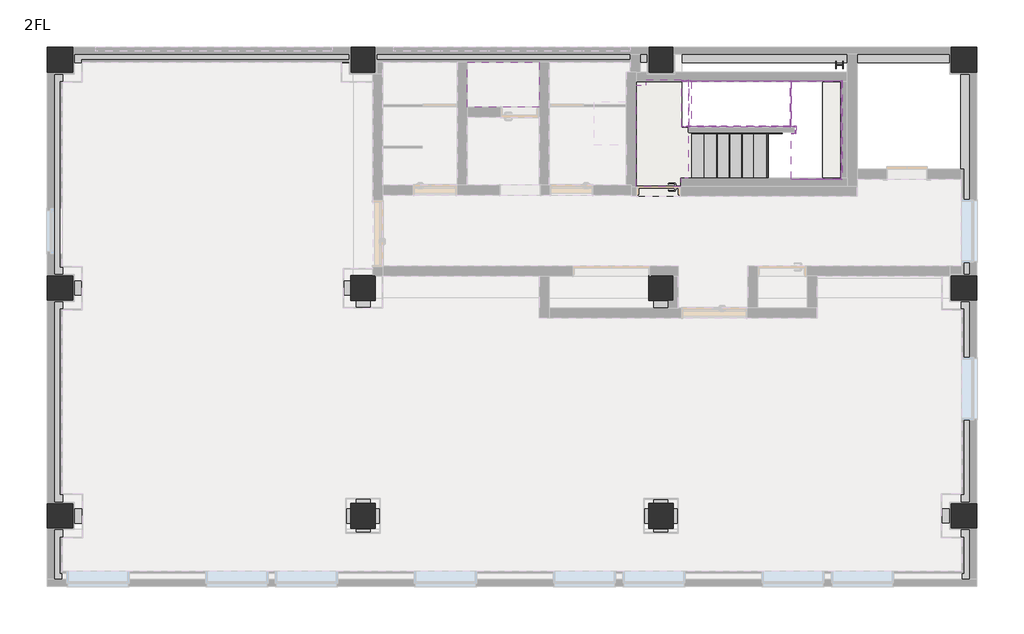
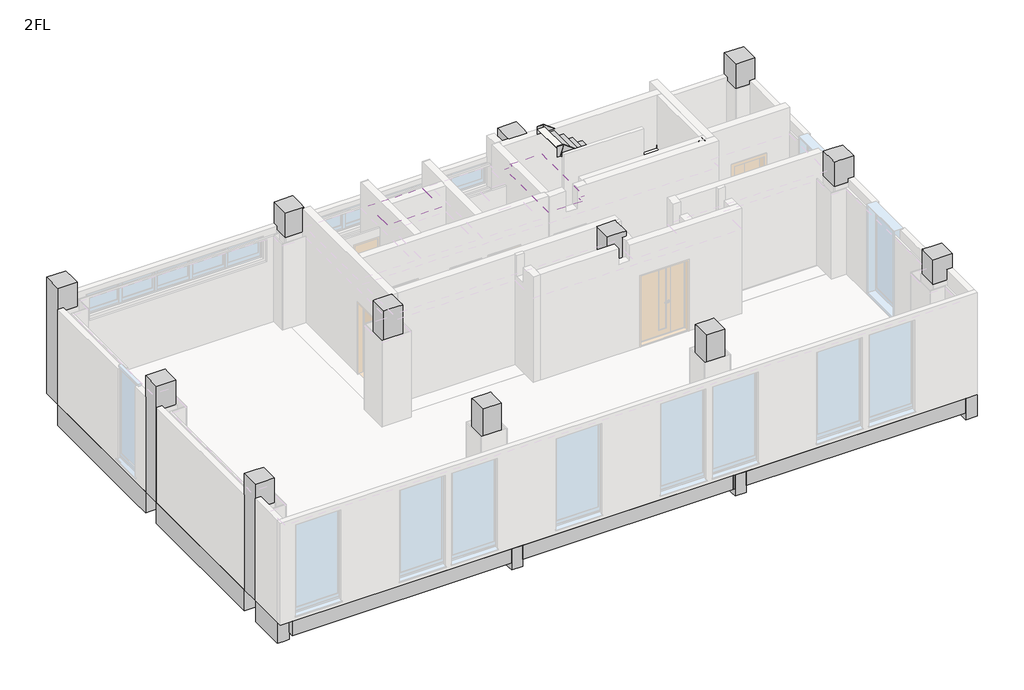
# One storey, part 4 of 4: 24 beams, 14 columns, 13 members, 3 coverings, 3 slabs, 2 stair flights.
"""IFC4 building model written with IfcOpenShell, lengths in millimetres."""

from ifc_helpers import new_model, si_unit, frame, origin, place, context, project, spatial, polyline, outline, extrude, faceted_brep, transform, mapped, element, save
from components import column_e4589e5c, column_fab59fd0, non_monolithic_landing_bc0c6dcb, non_monolithic_landing_c41cb356, stair_flight_45_mm_tread_10_mm_riser_4d8eba7b, stair_flight_45_mm_tread_10_mm_riser_bd22e289

model = new_model("IFC4")

# Units and contexts
model_context = context("Model", 3, world=origin())
ifc_project = project(units=[si_unit("LENGTHUNIT", "METRE", prefix="MILLI")], contexts=[model_context])

# Site, building, storey
site = spatial("IfcSite", under=ifc_project)
building = spatial("IfcBuilding", under=site)
storey = spatial("IfcBuildingStorey", under=building, Name="2FL", Elevation=3400.0)

# Beams
placement = place(None, origin())
element("IfcBeam", 1, ObjectType="RC : SG1(600X300)", at=placement, inside=storey, context=model_context, shape_type="Brep", body=[
    faceted_brep([(237.3000006, 150.0, 2650.0), (237.3000006, -150.0, 2650.0), (237.3000006, -150.0, 3250.0), (237.3000006, 150.0, 3250.0), (250.0, 150.0, 3250.0), (5840.0, 150.0, 3250.0), (5840.0, 150.0, 3100.0), (5840.0, 150.0, 2650.0), (250.0, -150.0, 3250.0), (5840.0, -150.0, 3250.0), (250.0, -150.0, 2650.0), (5840.0, -150.0, 2650.0), (5840.0, -125.0, 2650.0)], [[[0, 1, 2, 3]], [[0, 3, 4, 5, 6, 7]], [[3, 2, 8, 9, 5, 4]], [[2, 1, 10, 11, 9, 8]], [[1, 0, 7, 12, 11, 10]], [[7, 6, 5, 9, 11, 12]]]),
])
element("IfcBeam", 2, ObjectType="RC : SG1(600X300)", at=placement, inside=storey, context=model_context, shape_type="Brep", body=[
    faceted_brep([(11840.0, 150.0, 2650.0), (11840.0, 150.0, 3100.0), (11840.0, 150.0, 3250.0), (11840.0, -150.0, 3250.0), (11840.0, -150.0, 2650.0), (11840.0, -125.0, 2650.0), (6340.0000006, 150.0, 2650.0), (6340.0000006, -150.0, 2650.0), (6340.0000006, -150.0, 3250.0), (6340.0000006, 150.0, 3250.0), (11649.9999991, 150.0, 2650.0)], [[[0, 1, 2, 3, 4, 5]], [[6, 7, 8, 9]], [[2, 1, 0, 10, 6, 9]], [[3, 2, 9, 8]], [[4, 3, 8, 7]], [[0, 5, 4, 7, 6, 10]]]),
])
element("IfcBeam", 3, ObjectType="RC : SG1(600X300)", at=placement, inside=storey, context=model_context, shape_type="Brep", body=[
    faceted_brep([(17929.9999994, 150.0, 2650.0), (17929.9999994, 150.0, 3250.0), (17929.9999994, -150.0, 3250.0), (17929.9999994, -150.0, 2650.0), (12340.0000006, 150.0, 2650.0), (12340.0000006, -150.0, 2650.0), (12340.0000006, -150.0, 3250.0), (12340.0000006, 150.0, 3250.0), (17900.0, 150.0, 2650.0), (17780.0, 150.0, 2650.0), (15200.0, 150.0, 2650.0), (15055.0, 150.0, 2650.0), (15200.0, -150.0, 3250.0), (15200.0, -150.0, 2650.0), (17780.0, -150.0, 2650.0), (17900.0, -150.0, 2650.0)], [[[0, 1, 2, 3]], [[4, 5, 6, 7]], [[1, 0, 8, 9, 10, 11, 4, 7]], [[2, 1, 7, 6, 12]], [[3, 2, 12, 6, 5, 13, 14, 15]], [[0, 3, 15, 14, 13, 5, 4, 11, 10, 9, 8]]]),
])
element("IfcBeam", 4, ObjectType="RC : SG1(600X300)", at=placement, inside=storey, context=model_context, shape_type="SweptSolid", body=[
    extrude(outline(polyline([(5839.9999994, 4740.0), (5839.9999994, 4440.0), (250.0000006, 4440.0), (250.0000006, 4740.0), (5839.9999994, 4740.0)])), frame((0.0, 0.0, 2650.0), z_axis=(0.0, 0.0, 1.0), x_axis=(1.0, 0.0, 0.0)), (0.0, 0.0, 1.0), 600.0),
])
element("IfcBeam", 5, ObjectType="RC : SG1(600X300)", at=placement, inside=storey, context=model_context, shape_type="Brep", body=[
    faceted_brep([(11840.0, 4740.0, 2650.0), (11840.0, 4740.0, 3240.0), (11840.0, 4740.0, 3250.0), (11840.0, 4440.0, 3250.0), (11840.0, 4440.0, 3100.0), (11840.0, 4440.0, 2650.0), (6340.0000006, 4740.0, 2650.0), (6340.0000006, 4440.0, 2650.0), (6340.0000006, 4440.0, 3250.0), (6340.0000006, 4740.0, 3250.0), (9840.0, 4740.0, 2650.0), (9640.0, 4740.0, 2650.0), (9640.0, 4440.0, 2650.0), (9840.0, 4440.0, 2650.0)], [[[0, 1, 2, 3, 4, 5]], [[6, 7, 8, 9]], [[2, 1, 0, 10, 11, 6, 9]], [[3, 2, 9, 8]], [[5, 4, 3, 8, 7, 12, 13]], [[0, 5, 13, 12, 7, 6, 11, 10]]]),
])
element("IfcBeam", 6, ObjectType="RC : SG1(600X300)", at=placement, inside=storey, context=model_context, shape_type="Brep", body=[
    faceted_brep([(17929.9999994, 4740.0, 2650.0), (17929.9999994, 4740.0, 3250.0), (17929.9999994, 4440.0, 3250.0), (17929.9999994, 4440.0, 2650.0), (12340.0000006, 4740.0, 2650.0), (12340.0000006, 4440.0, 2650.0), (12340.0000006, 4440.0, 3250.0), (12340.0000006, 4740.0, 3250.0), (15240.0, 4740.0, 2650.0), (15040.0, 4740.0, 2650.0), (13640.0, 4740.0, 2650.0), (13440.0, 4740.0, 2650.0), (12440.0, 4740.0, 2650.0), (12440.0, 4740.0, 3250.0), (12440.0, 4440.0, 3250.0), (12440.0, 4440.0, 2650.0), (13440.0, 4440.0, 2650.0), (13640.0, 4440.0, 2650.0), (15040.0, 4440.0, 2650.0), (15240.0, 4440.0, 2650.0)], [[[0, 1, 2, 3]], [[4, 5, 6, 7]], [[1, 0, 8, 9, 10, 11, 12, 4, 7, 13]], [[2, 1, 13, 7, 6, 14]], [[3, 2, 14, 6, 5, 15, 16, 17, 18, 19]], [[0, 3, 19, 18, 17, 16, 15, 5, 4, 12, 11, 10, 9, 8]]]),
])
element("IfcBeam", 7, ObjectType="RC : SG1(600X300)", at=placement, inside=storey, context=model_context, shape_type="SweptSolid", body=[
    extrude(outline(polyline([(5940.0, 4339.9999994), (6240.0, 4339.9999994), (6240.0, 250.0000006), (5940.0, 250.0000006), (5940.0, 4339.9999994)])), frame((0.0, 0.0, 2650.0), z_axis=(0.0, 0.0, 1.0), x_axis=(1.0, 0.0, 0.0)), (0.0, 0.0, 1.0), 600.0),
])
element("IfcBeam", 8, ObjectType="RC : SG1(600X300)", at=placement, inside=storey, context=model_context, shape_type="SweptSolid", body=[
    extrude(outline(polyline([(5940.0, 8929.9999994), (6240.0, 8929.9999994), (6240.0, 4840.0000006), (5940.0, 4840.0000006), (5940.0, 8929.9999994)])), frame((0.0, 0.0, 2650.0), z_axis=(0.0, 0.0, 1.0), x_axis=(1.0, 0.0, 0.0)), (0.0, 0.0, 1.0), 600.0),
])
element("IfcBeam", 9, ObjectType="RC : SG1(600X300)", at=placement, inside=storey, context=model_context, shape_type="Brep", body=[
    faceted_brep([(11940.0, 4339.9999994, 2650.0), (11940.0, 4339.9999994, 3250.0), (12240.0, 4339.9999994, 3250.0), (12240.0, 4339.9999994, 2650.0), (11940.0, 250.0000006, 2650.0), (12240.0, 250.0000006, 2650.0), (12240.0, 250.0000006, 3250.0), (11940.0, 250.0000006, 3250.0), (11940.0, 4190.0, 2650.0), (11940.0, 3990.0, 2650.0), (12240.0, 3990.0, 2650.0), (12240.0, 4190.0, 2650.0)], [[[0, 1, 2, 3]], [[4, 5, 6, 7]], [[1, 0, 8, 9, 4, 7]], [[2, 1, 7, 6]], [[3, 2, 6, 5, 10, 11]], [[0, 3, 11, 10, 5, 4, 9, 8]]]),
])
element("IfcBeam", 10, ObjectType="RC : SG1(600X300)", at=placement, inside=storey, context=model_context, shape_type="Brep", body=[
    faceted_brep([(11940.0, 8929.9999994, 2650.0), (11940.0, 8929.9999994, 3250.0), (12240.0, 8929.9999994, 3250.0), (12240.0, 8929.9999994, 2650.0), (11940.0, 4840.0000006, 2650.0), (12240.0, 4840.0000006, 2650.0), (12240.0, 4840.0000006, 3250.0), (11940.0, 4840.0000006, 3250.0), (11940.0, 8747.5, 2650.0), (11940.0, 6640.0, 2650.0), (11940.0, 6440.0, 2650.0), (11940.0, 4939.9999966, 2650.0), (11940.0, 8747.5, 3250.0), (12240.0, 8747.5, 3250.0), (12240.0, 4939.9999966, 2650.0), (12240.0, 6440.0, 2650.0), (12240.0, 6640.0, 2650.0), (12240.0, 8747.5, 2650.0)], [[[0, 1, 2, 3]], [[4, 5, 6, 7]], [[1, 0, 8, 9, 10, 11, 4, 7, 12]], [[2, 1, 12, 7, 6, 13]], [[3, 2, 13, 6, 5, 14, 15, 16, 17]], [[0, 3, 17, 16, 15, 14, 5, 4, 11, 10, 9, 8]]]),
])
element("IfcBeam", 11, ObjectType="RC : SG1(600X300)", at=placement, inside=storey, context=model_context, shape_type="Brep", body=[
    faceted_brep([(6240.0, -1420.0, 2650.0), (6240.0, -1420.0, 2850.0), (6240.0, -1420.0, 3250.0), (5940.0, -1420.0, 3250.0), (5940.0, -1420.0, 2850.0), (5940.0, -1420.0, 2650.0), (6240.0, -1275.0, 2650.0), (6240.0, -270.0, 2650.0), (6240.0, -270.0, 3100.0), (6240.0, -270.0, 3250.0), (6240.0, -1230.0, 3250.0), (5940.0, -270.0, 3250.0), (5940.0, -1230.0, 3250.0), (5940.0, -270.0, 3100.0), (5940.0, -270.0, 2650.0), (5940.0, -1275.0, 2650.0)], [[[0, 1, 2, 3, 4, 5]], [[2, 1, 0, 6, 7, 8, 9, 10]], [[3, 2, 10, 9, 11, 12]], [[5, 4, 3, 12, 11, 13, 14, 15]], [[0, 5, 15, 14, 7, 6]], [[9, 8, 7, 14, 13, 11]]]),
])
element("IfcBeam", 12, ObjectType="RC : SG1(600X300)", at=placement, inside=storey, context=model_context, shape_type="Brep", body=[
    faceted_brep([(12240.0, -1420.0, 2650.0), (12240.0, -1420.0, 2850.0), (12240.0, -1420.0, 3250.0), (11940.0, -1420.0, 3250.0), (11940.0, -1420.0, 2850.0), (11940.0, -1420.0, 2650.0), (12240.0, -1275.0, 2650.0), (12240.0, -270.0, 2650.0), (12240.0, -270.0, 3100.0), (12240.0, -270.0, 3250.0), (12240.0, -1230.0, 3250.0), (11940.0, -270.0, 3250.0), (11940.0, -1230.0, 3250.0), (11940.0, -270.0, 3100.0), (11940.0, -270.0, 2650.0), (11940.0, -1275.0, 2650.0)], [[[0, 1, 2, 3, 4, 5]], [[2, 1, 0, 6, 7, 8, 9, 10]], [[3, 2, 10, 9, 11, 12]], [[5, 4, 3, 12, 11, 13, 14, 15]], [[0, 5, 15, 14, 7, 6]], [[9, 8, 7, 14, 13, 11]]]),
])
element("IfcBeam", 13, ObjectType="RC_2 : SG1(400X180)", at=placement, inside=storey, context=model_context, shape_type="Brep", body=[
    faceted_brep([(5940.0, -1230.0, 2850.0), (5940.0, -1230.0, 3100.0), (5940.0, -1230.0, 3250.0), (5940.0, -1420.0, 3250.0), (5940.0, -1420.0, 2850.0), (5940.0, -1275.0, 2850.0), (50.0, -1230.0, 2850.0), (50.0, -1275.0, 2850.0), (50.0, -1420.0, 2850.0), (50.0, -1420.0, 3250.0), (50.0, -1275.0, 3250.0), (50.0, -1230.0, 3250.0), (50.0, -1230.0, 3100.0)], [[[0, 1, 2, 3, 4, 5]], [[6, 7, 8, 9, 10, 11, 12]], [[2, 1, 0, 6, 12, 11]], [[3, 2, 11, 10, 9]], [[4, 3, 9, 8]], [[0, 5, 4, 8, 7, 6]]]),
])
element("IfcBeam", 14, ObjectType="RC_2 : SG1(400X180)", at=placement, inside=storey, context=model_context, shape_type="Brep", body=[
    faceted_brep([(6240.0, -1230.0, 2850.0), (6240.0, -1275.0, 2850.0), (6240.0, -1420.0, 2850.0), (6240.0, -1420.0, 3250.0), (6240.0, -1230.0, 3250.0), (11891.0054083, -1230.0, 3250.0), (11891.0054083, -1230.0, 2850.0), (11891.0054083, -1420.0, 3250.0), (11891.0054083, -1420.0, 2850.0)], [[[0, 1, 2, 3, 4]], [[0, 4, 5, 6]], [[4, 3, 7, 5]], [[3, 2, 8, 7]], [[2, 1, 0, 6, 8]], [[6, 5, 7, 8]]]),
])
element("IfcBeam", 15, ObjectType="RC_2 : SG1(400X180)", at=placement, inside=storey, context=model_context, shape_type="Brep", body=[
    faceted_brep([(11891.0054083, -1230.0, 2850.0), (11891.0054083, -1420.0, 2850.0), (11891.0054083, -1420.0, 3250.0), (11891.0054083, -1230.0, 3250.0), (11940.0, -1230.0, 2850.0), (11940.0, -1230.0, 3250.0), (11940.0, -1420.0, 3250.0), (11940.0, -1420.0, 2850.0), (11940.0, -1275.0, 2850.0)], [[[0, 1, 2, 3]], [[4, 5, 6, 7, 8]], [[0, 3, 5, 4]], [[3, 2, 6, 5]], [[2, 1, 7, 6]], [[1, 0, 4, 8, 7]]]),
    faceted_brep([(12240.0, -1230.0, 2850.0), (12240.0, -1230.0, 3250.0), (18130.0, -1230.0, 3250.0), (18130.0, -1230.0, 2850.0), (12240.0, -1420.0, 3250.0), (18130.0, -1420.0, 3250.0), (12240.0, -1420.0, 2850.0), (18130.0, -1420.0, 2850.0), (12240.0, -1275.0, 2850.0), (18130.0, -1275.0, 2850.0)], [[[0, 1, 2, 3]], [[1, 4, 5, 2]], [[4, 6, 7, 5]], [[6, 8, 0, 3, 9, 7]], [[1, 0, 8, 6, 4]], [[3, 2, 5, 7, 9]]]),
])
element("IfcBeam", 16, ObjectType="RC_2 : SG1(600X300)", at=placement, inside=storey, context=model_context, shape_type="Brep", body=[
    faceted_brep([(18130.0, 4339.9999994, 2650.0), (18130.0, 4339.9999994, 3250.0), (18450.0, 4339.9999994, 3250.0), (18450.0, 4339.9999994, 2650.0), (18130.0, 250.0000006, 2650.0), (18450.0, 250.0000006, 2650.0), (18450.0, 250.0000006, 3250.0), (18130.0, 250.0000006, 3250.0), (18450.0, 1230.0, 2650.0)], [[[0, 1, 2, 3]], [[4, 5, 6, 7]], [[1, 0, 4, 7]], [[2, 1, 7, 6]], [[3, 2, 6, 5, 8]], [[0, 3, 8, 5, 4]]]),
])
element("IfcBeam", 17, ObjectType="RC_2 : SG1(600X300)", at=placement, inside=storey, context=model_context, shape_type="Brep", body=[
    faceted_brep([(18130.0, 8929.9999994, 2650.0), (18130.0, 8929.9999994, 3250.0), (18450.0, 8929.9999994, 3250.0), (18450.0, 8929.9999994, 2650.0), (18130.0, 4840.0000006, 2650.0), (18450.0, 4840.0000006, 2650.0), (18450.0, 4840.0000006, 3250.0), (18130.0, 4840.0000006, 3250.0), (18450.0, 5190.0, 2650.0), (18450.0, 6410.0, 2650.0)], [[[0, 1, 2, 3]], [[4, 5, 6, 7]], [[1, 0, 4, 7]], [[2, 1, 7, 6]], [[3, 2, 6, 5, 8, 9]], [[0, 3, 9, 8, 5, 4]]]),
])
element("IfcBeam", 18, ObjectType="RC_2 : SG1(600X300)", at=placement, inside=storey, context=model_context, shape_type="Brep", body=[
    faceted_brep([(-270.0, 4340.0, 2650.0), (-270.0, 4340.0, 3250.0), (-125.0, 4340.0, 3250.0), (50.0, 4340.0, 3250.0), (50.0, 4340.0, 2650.0), (-125.0, 4340.0, 2650.0), (-270.0, 250.0000006, 2650.0), (50.0, 250.0000006, 2650.0), (50.0, 250.0000006, 3250.0), (-270.0, 250.0000006, 3250.0)], [[[0, 1, 2, 3, 4, 5]], [[6, 7, 8, 9]], [[1, 0, 6, 9]], [[3, 2, 1, 9, 8]], [[4, 3, 8, 7]], [[0, 5, 4, 7, 6]]]),
])
element("IfcBeam", 19, ObjectType="RC_2 : SG1(600X300)", at=placement, inside=storey, context=model_context, shape_type="Brep", body=[
    faceted_brep([(-270.0, 8929.9999994, 2650.0), (-270.0, 8929.9999994, 3250.0), (50.0, 8929.9999994, 3250.0), (50.0, 8929.9999994, 2650.0), (-270.0, 4840.0, 2650.0), (-125.0, 4840.0, 2650.0), (50.0, 4840.0, 2650.0), (50.0, 4840.0, 3250.0), (-125.0, 4840.0, 3250.0), (-270.0, 4840.0, 3250.0), (-270.0, 6210.0, 2650.0), (-270.0, 5390.0, 2650.0)], [[[0, 1, 2, 3]], [[4, 5, 6, 7, 8, 9]], [[1, 0, 10, 11, 4, 9]], [[2, 1, 9, 8, 7]], [[3, 2, 7, 6]], [[0, 3, 6, 5, 4, 11, 10]]]),
])
element("IfcBeam", 20, ObjectType="RC_2 : SG1(600X300)", at=placement, inside=storey, context=model_context, shape_type="Brep", body=[
    faceted_brep([(5839.9999994, 9450.0, 2650.0), (5839.9999994, 9450.0, 3250.0), (5839.9999994, 9130.0, 3250.0), (5839.9999994, 9130.0, 2650.0), (250.0, 9450.0, 2650.0), (250.0, 9305.0, 2650.0), (250.0, 9130.0, 2650.0), (250.0, 9130.0, 3250.0), (250.0, 9305.0, 3250.0), (250.0, 9450.0, 3250.0)], [[[0, 1, 2, 3]], [[4, 5, 6, 7, 8, 9]], [[1, 0, 4, 9]], [[2, 1, 9, 8, 7]], [[3, 2, 7, 6]], [[0, 3, 6, 5, 4]]]),
])
element("IfcBeam", 21, ObjectType="RC_2 : SG1(600X300)", at=placement, inside=storey, context=model_context, shape_type="Brep", body=[
    faceted_brep([(11840.0, 9450.0, 2650.0), (11840.0, 9450.0, 3250.0), (11840.0, 9305.0, 3250.0), (11840.0, 9130.0, 3250.0), (11840.0, 9130.0, 2650.0), (11840.0, 9305.0, 2650.0), (6340.0000006, 9450.0, 2650.0), (6340.0000006, 9130.0, 2650.0), (6340.0000006, 9130.0, 3250.0), (6340.0000006, 9450.0, 3250.0)], [[[0, 1, 2, 3, 4, 5]], [[6, 7, 8, 9]], [[1, 0, 6, 9]], [[3, 2, 1, 9, 8]], [[4, 3, 8, 7]], [[0, 5, 4, 7, 6]]]),
])
element("IfcBeam", 22, ObjectType="RC_2 : SG1(600X300)", at=placement, inside=storey, context=model_context, shape_type="SweptSolid", body=[
    extrude(outline(polyline([(17929.9999994, 9450.0), (17929.9999994, 9130.0), (12340.0000006, 9130.0), (12340.0000006, 9450.0), (17929.9999994, 9450.0)])), frame((0.0, 0.0, 2650.0), z_axis=(0.0, 0.0, 1.0), x_axis=(1.0, 0.0, 0.0)), (0.0, 0.0, 1.0), 600.0),
])
element("IfcBeam", 23, ObjectType="RC_2 : SG1(600X300)", at=placement, inside=storey, context=model_context, shape_type="Brep", body=[
    faceted_brep([(18130.0, -250.0, 2650.0), (18130.0, -250.0, 3250.0), (18305.0, -250.0, 3250.0), (18450.0, -250.0, 3250.0), (18450.0, -250.0, 2650.0), (18330.0, -250.0, 2650.0), (18130.0, -1420.0, 2650.0), (18450.0, -1420.0, 2650.0), (18450.0, -1420.0, 3250.0), (18130.0, -1420.0, 3250.0), (18130.0, -1420.0, 2850.0), (18130.0, -1275.0, 2650.0), (18130.0, -1230.0, 3250.0), (18450.0, -1275.0, 3250.0), (18450.0, -1275.0, 2650.0), (18450.0, -284.9999682, 2650.0)], [[[0, 1, 2, 3, 4, 5]], [[6, 7, 8, 9, 10]], [[1, 0, 11, 6, 10, 9, 12]], [[3, 2, 1, 12, 9, 8, 13]], [[4, 3, 13, 8, 7, 14, 15]], [[0, 5, 4, 15, 14, 7, 6, 11]]]),
])
element("IfcBeam", 24, ObjectType="RC_2 : SG1(600X300)", at=placement, inside=storey, context=model_context, shape_type="Brep", body=[
    faceted_brep([(50.0, -270.0, 2650.0), (50.0, -270.0, 3100.0), (50.0, -270.0, 3250.0), (50.0, -1230.0, 3250.0), (50.0, -1275.0, 3250.0), (50.0, -1275.0, 2850.0), (50.0, -1275.0, 2650.0), (-270.0, -270.0, 3250.0), (-270.0, -1275.0, 3250.0), (-125.0, -1275.0, 3250.0), (-270.0, -270.0, 2650.0), (-270.0, -1275.0, 2650.0), (-125.0, -270.0, 2650.0), (-125.0, -1275.0, 2650.0)], [[[0, 1, 2, 3, 4, 5, 6]], [[2, 7, 8, 9, 4, 3]], [[7, 10, 11, 8]], [[10, 12, 0, 6, 13, 11]], [[2, 1, 0, 12, 10, 7]], [[6, 5, 4, 9, 8, 11, 13]]]),
])

# Columns
element("IfcColumn", 25, ObjectType="RC柱 矩形 : •C2_500×500", at=placement, inside=storey, context=model_context, shape_type="Brep", body=[
    faceted_brep([(5840.0, -250.0, 6550.0), (6340.0, -250.0, 6550.0), (6340.0, 150.0, 6550.0), (6340.0, 250.0, 6550.0), (6240.0, 250.0, 6550.0), (5940.0, 250.0, 6550.0), (5840.0, 250.0, 6550.0), (5840.0, 150.0, 6550.0), (6340.0, 250.0, 3250.0), (6340.0, -250.0, 3250.0), (5840.0, -250.0, 3250.0), (5840.0, 250.0, 3250.0), (5840.0, 250.0, 6400.0), (6340.0, 250.0, 6400.0)], [[[0, 1, 2, 3, 4, 5, 6, 7]], [[8, 9, 10, 11]], [[8, 11, 12, 6, 5, 4, 3, 13]], [[11, 10, 0, 7, 6, 12]], [[1, 0, 10, 9]], [[9, 8, 13, 3, 2, 1]]]),
])
element("IfcColumn", 26, ObjectType="RC柱 矩形 : •C2_500×500", at=placement, inside=storey, context=model_context, shape_type="Brep", body=[
    faceted_brep([(11840.0, -250.0, 6550.0), (12340.0, -250.0, 6550.0), (12340.0, 150.0, 6550.0), (12340.0, 250.0, 6550.0), (12240.0, 250.0, 6550.0), (11940.0, 250.0, 6550.0), (11840.0, 250.0, 6550.0), (11840.0, 150.0, 6550.0), (12340.0, 250.0, 3250.0), (12340.0, -250.0, 3250.0), (11840.0, -250.0, 3250.0), (11840.0, 250.0, 3250.0), (11840.0, 250.0, 6400.0), (12340.0, 250.0, 6400.0)], [[[0, 1, 2, 3, 4, 5, 6, 7]], [[8, 9, 10, 11]], [[8, 11, 12, 6, 5, 4, 3, 13]], [[11, 10, 0, 7, 6, 12]], [[1, 0, 10, 9]], [[9, 8, 13, 3, 2, 1]]]),
])
element("IfcColumn", 27, ObjectType="RC柱 矩形 : •C2_500×500", at=placement, inside=storey, context=model_context, shape_type="Brep", body=[
    faceted_brep([(6340.0, 4840.0, 6550.0), (5940.0, 4840.0, 6550.0), (5890.0, 4840.0, 6550.0), (5840.0, 4840.0, 6550.0), (5840.0, 4740.0, 6550.0), (5840.0, 4440.0, 6550.0), (5840.0, 4340.0, 6550.0), (5940.0, 4340.0, 6550.0), (6240.0, 4340.0, 6550.0), (6340.0, 4340.0, 6550.0), (6340.0, 4390.0, 6550.0), (6340.0, 4440.0, 6550.0), (6340.0, 4340.0, 3250.0), (5840.0, 4340.0, 3250.0), (5840.0, 4840.0, 3250.0), (5890.0, 4840.0, 3250.0), (6240.0, 4840.0, 3250.0), (6340.0, 4840.0, 3250.0), (6340.0, 4740.0, 3250.0), (6340.0, 4390.0, 3250.0), (5840.0, 4840.0, 6400.0), (6340.0, 4840.0, 6540.0), (6340.0, 4840.0, 3390.0), (5840.0, 4340.0, 6400.0), (6340.0, 4340.0, 6400.0)], [[[0, 1, 2, 3, 4, 5, 6, 7, 8, 9, 10, 11]], [[12, 13, 14, 15, 16, 17, 18, 19]], [[15, 14, 20, 3, 2, 1, 0, 21, 22, 17, 16]], [[14, 13, 23, 6, 5, 4, 3, 20]], [[13, 12, 24, 9, 8, 7, 6, 23]], [[19, 18, 17, 22, 21, 0, 11, 10, 9, 24, 12]]]),
])
element("IfcColumn", 28, ObjectType="RC柱 矩形 : •C2_500×500", at=placement, inside=storey, context=model_context, shape_type="Brep", body=[
    faceted_brep([(12340.0, 4840.0, 6550.0), (11840.0, 4840.0, 6550.0), (11840.0, 4440.0, 6550.0), (11840.0, 4390.0, 6550.0), (11840.0, 4340.0, 6550.0), (11940.0, 4340.0, 6550.0), (12240.0, 4340.0, 6550.0), (12340.0, 4340.0, 6550.0), (12340.0, 4390.0, 6550.0), (12340.0, 4440.0, 6550.0), (12340.0, 4740.0, 6550.0), (12340.0, 4830.0, 6550.0), (12340.0, 4340.0, 3250.0), (12240.0, 4340.0, 3250.0), (11840.0, 4340.0, 3250.0), (11840.0, 4390.0, 3250.0), (11840.0, 4740.0, 3250.0), (11840.0, 4840.0, 3250.0), (11940.0, 4840.0, 3250.0), (12240.0, 4840.0, 3250.0), (12340.0, 4840.0, 3250.0), (12340.0, 4740.0, 3250.0), (12340.0, 4390.0, 3250.0), (12340.0, 4840.0, 6540.0), (12340.0, 4840.0, 3390.0), (11840.0, 4840.0, 3390.0), (11840.0, 4840.0, 3400.0), (11840.0, 4840.0, 5427.5), (11840.0, 4840.0, 6540.0), (11840.0, 4340.0, 6400.0), (12340.0, 4340.0, 6400.0)], [[[0, 1, 2, 3, 4, 5, 6, 7, 8, 9, 10, 11]], [[12, 13, 14, 15, 16, 17, 18, 19, 20, 21, 22]], [[1, 0, 23, 24, 20, 19, 18, 17, 25, 26, 27, 28]], [[15, 14, 29, 4, 3, 2, 1, 28, 27, 26, 25, 17, 16]], [[14, 13, 12, 30, 7, 6, 5, 4, 29]], [[22, 21, 20, 24, 23, 0, 11, 10, 9, 8, 7, 30, 12]]]),
])
element("IfcColumn", 29, ObjectType="RC柱 矩形_2 : •C2_500×500", at=placement, inside=storey, context=model_context, shape_type="Brep", body=[
    faceted_brep([(-270.0, 4340.0, 3250.0), (-125.0, 4340.0, 3250.0), (250.0, 4340.0, 3250.0), (250.0, 4340.0, 6400.0), (250.0, 4340.0, 6550.0), (50.0, 4340.0, 6550.0), (-270.0, 4340.0, 6550.0), (-270.0, 4340.0, 5950.0), (-270.0, 4840.0, 6550.0), (-270.0, 4840.0, 5950.0), (-270.0, 4840.0, 3250.0), (250.0, 4840.0, 3250.0), (-125.0, 4840.0, 3250.0), (250.0, 4840.0, 6400.0), (250.0, 4840.0, 6550.0), (250.0, 4740.0, 6550.0), (250.0, 4440.0, 6550.0), (50.0, 4840.0, 6550.0)], [[[0, 1, 2, 3, 4, 5, 6, 7]], [[0, 7, 6, 8, 9, 10]], [[11, 2, 1, 0, 10, 12]], [[2, 11, 13, 14, 15, 16, 4, 3]], [[11, 12, 10, 9, 8, 17, 14, 13]], [[8, 6, 5, 4, 16, 15, 14, 17]]]),
])
element("IfcColumn", 30, ObjectType="RC柱 矩形_2 : •C2_500×500", at=placement, inside=storey, context=model_context, shape_type="Brep", body=[
    faceted_brep([(-270.0, 8930.0, 3250.0), (-125.0, 8930.0, 3250.0), (250.0, 8930.0, 3250.0), (250.0, 8930.0, 6400.0), (250.0, 8930.0, 6550.0), (50.0, 8930.0, 6550.0), (-270.0, 8930.0, 6550.0), (-270.0, 8930.0, 5950.0), (-270.0, 9450.0, 6550.0), (-270.0, 9450.0, 3250.0), (250.0, 9450.0, 3250.0), (250.0, 9305.0, 3250.0), (250.0, 9450.0, 5950.0), (250.0, 9450.0, 6550.0), (250.0, 9130.0, 6550.0)], [[[0, 1, 2, 3, 4, 5, 6, 7]], [[0, 7, 6, 8, 9]], [[10, 11, 2, 1, 0, 9]], [[2, 11, 10, 12, 13, 14, 4, 3]], [[10, 9, 8, 13, 12]], [[8, 6, 5, 4, 14, 13]]]),
])
element("IfcColumn", 31, ObjectType="RC柱 矩形_2 : •C2_500×500", at=placement, inside=storey, context=model_context, shape_type="Brep", body=[
    faceted_brep([(6340.0, 8930.0, 6550.0), (5840.0, 8930.0, 6550.0), (5840.0, 8930.0, 3250.0), (6340.0, 8930.0, 3250.0), (5840.0, 9130.0, 6550.0), (5840.0, 9450.0, 6550.0), (5840.0, 9450.0, 5950.0), (5840.0, 9450.0, 3250.0), (5840.0, 9305.0, 3250.0), (6340.0, 9450.0, 3250.0), (6340.0, 9305.0, 3250.0), (6340.0, 9450.0, 6550.0), (6340.0, 9130.0, 6550.0), (6340.0, 9450.0, 5950.0)], [[[0, 1, 2, 3]], [[1, 4, 5, 6, 7, 8, 2]], [[9, 10, 3, 2, 8, 7]], [[11, 12, 0, 3, 10, 9, 13]], [[5, 11, 13, 9, 7, 6]], [[11, 5, 4, 1, 0, 12]]]),
])
element("IfcColumn", 32, ObjectType="RC柱 矩形_2 : •C2_500×500", at=placement, inside=storey, context=model_context, shape_type="Brep", body=[
    faceted_brep([(11840.0, 8930.0, 3250.0), (11940.0, 8930.0, 3250.0), (12240.0, 8930.0, 3250.0), (12340.0, 8930.0, 3250.0), (12340.0, 8930.0, 3390.0), (12340.0, 8930.0, 6540.0), (12340.0, 8930.0, 6550.0), (11840.0, 8930.0, 6550.0), (11840.0, 8930.0, 6540.0), (11840.0, 8930.0, 3390.0), (11840.0, 8947.5, 6550.0), (11840.0, 9130.0, 6550.0), (11840.0, 9450.0, 6550.0), (11840.0, 9450.0, 5950.0), (11840.0, 9450.0, 3250.0), (11840.0, 9305.0, 3250.0), (11840.0, 9130.0, 3250.0), (12340.0, 9450.0, 3250.0), (12340.0, 9305.0, 3250.0), (12340.0, 8947.5, 3250.0), (12340.0, 9450.0, 5950.0), (12340.0, 9450.0, 6550.0), (12340.0, 9130.0, 6550.0), (12340.0, 8947.5, 6550.0)], [[[0, 1, 2, 3, 4, 5, 6, 7, 8, 9]], [[0, 9, 8, 7, 10, 11, 12, 13, 14, 15, 16]], [[17, 18, 19, 3, 2, 1, 0, 16, 15, 14]], [[3, 19, 18, 17, 20, 21, 22, 23, 6, 5, 4]], [[17, 14, 13, 12, 21, 20]], [[6, 23, 22, 21, 12, 11, 10, 7]]]),
])
element("IfcColumn", 33, ObjectType="RC柱 矩形_2 : •C1_500×500", at=placement, inside=storey, context=model_context, shape_type="Brep", body=[
    faceted_brep([(18450.0, 8930.0, 6550.0), (18130.0, 8930.0, 6550.0), (17930.0, 8930.0, 6550.0), (17930.0, 8930.0, 3250.0), (18305.0, 8930.0, 3250.0), (18450.0, 8930.0, 3250.0), (18450.0, 8930.0, 5950.0), (17930.0, 9130.0, 6550.0), (17930.0, 9450.0, 6550.0), (17930.0, 9450.0, 5950.0), (17930.0, 9450.0, 3250.0), (17930.0, 9305.0, 3250.0), (18450.0, 9450.0, 3250.0), (18450.0, 9450.0, 6550.0)], [[[0, 1, 2, 3, 4, 5, 6]], [[2, 7, 8, 9, 10, 11, 3]], [[12, 5, 4, 3, 11, 10]], [[13, 0, 6, 5, 12]], [[8, 13, 12, 10, 9]], [[13, 8, 7, 2, 1, 0]]]),
])
element("IfcColumn", 34, ObjectType="RC柱 矩形_2 : •C2_500×500", at=placement, inside=storey, context=model_context, shape_type="Brep", body=[
    faceted_brep([(17930.0, 4340.0, 3250.0), (18305.0, 4340.0, 3250.0), (18450.0, 4340.0, 3250.0), (18450.0, 4340.0, 5950.0), (18450.0, 4340.0, 6550.0), (18130.0, 4340.0, 6550.0), (18125.0, 4340.0, 6550.0), (17930.0, 4340.0, 6550.0), (17930.0, 4340.0, 6400.0), (17930.0, 4840.0, 3390.0), (17930.0, 4840.0, 3250.0), (17930.0, 4740.0, 3250.0), (17930.0, 4390.0, 3250.0), (17930.0, 4390.0, 6550.0), (17930.0, 4440.0, 6550.0), (17930.0, 4840.0, 6550.0), (17930.0, 4840.0, 6540.0), (18450.0, 4840.0, 3250.0), (18125.0, 4840.0, 3250.0), (18305.0, 4840.0, 3250.0), (18450.0, 4840.0, 5950.0), (18450.0, 4840.0, 6550.0), (18130.0, 4840.0, 6550.0)], [[[0, 1, 2, 3, 4, 5, 6, 7, 8]], [[9, 10, 11, 12, 0, 8, 7, 13, 14, 15, 16]], [[17, 2, 1, 0, 12, 11, 10, 18, 19]], [[2, 17, 20, 21, 4, 3]], [[21, 20, 17, 19, 18, 10, 9, 16, 15, 22]], [[4, 21, 22, 15, 14, 13, 7, 6, 5]]]),
])
element("IfcColumn", 35, ObjectType="RC柱 矩形_2 : •C2_500×500", at=placement, inside=storey, context=model_context, shape_type="Brep", body=[
    faceted_brep([(17930.0, -250.0, 3250.0), (18305.0, -250.0, 3250.0), (18450.0, -250.0, 3250.0), (18450.0, -250.0, 6150.0), (18450.0, -250.0, 6550.0), (18250.0, -250.0, 6550.0), (17930.0, -250.0, 6550.0), (17930.0, 150.0, 6550.0), (17930.0, 250.0, 6550.0), (17930.0, 250.0, 6400.0), (17930.0, 250.0, 3250.0), (18450.0, 250.0, 3250.0), (18305.0, 250.0, 3250.0), (18450.0, 250.0, 5950.0), (18450.0, 250.0, 6550.0), (18125.0, 250.0, 6550.0), (18130.0, 250.0, 6550.0)], [[[0, 1, 2, 3, 4, 5, 6]], [[0, 6, 7, 8, 9, 10]], [[11, 2, 1, 0, 10, 12]], [[2, 11, 13, 14, 4, 3]], [[11, 12, 10, 9, 8, 15, 16, 14, 13]], [[4, 14, 16, 15, 8, 7, 6, 5]]]),
])
element("IfcColumn", 36, ObjectType="RC柱 矩形_2 : •C2_500×500", at=placement, inside=storey, context=model_context, shape_type="Brep", body=[
    faceted_brep([(-270.0, -250.0, 3250.0), (-125.0, -250.0, 3250.0), (50.0, -250.0, 3250.0), (250.0, -250.0, 3250.0), (250.0, -250.0, 6550.0), (-70.0, -250.0, 6550.0), (-270.0, -250.0, 6550.0), (-270.0, -250.0, 6150.0), (-270.0, 250.0, 6550.0), (-270.0, 250.0, 5950.0), (-270.0, 250.0, 3250.0), (250.0, 250.0, 3250.0), (-125.0, 250.0, 3250.0), (250.0, 250.0, 6400.0), (250.0, 250.0, 6550.0), (250.0, 150.0, 6550.0), (50.0, 250.0, 6550.0)], [[[0, 1, 2, 3, 4, 5, 6, 7]], [[0, 7, 6, 8, 9, 10]], [[11, 3, 2, 1, 0, 10, 12]], [[3, 11, 13, 14, 15, 4]], [[11, 12, 10, 9, 8, 16, 14, 13]], [[6, 5, 4, 15, 14, 16, 8]]]),
])
column_shape = column_e4589e5c(model_context)
element("IfcColumn", 37, ObjectType="S柱 H型x : 階名+部材名", at=placement, inside=storey, context=model_context, shape_type="MappedRepresentation", body=[
    mapped(column_shape, transform((15690.0000166, 9090.0, 0.0), x_axis=(0.0, -1.0, 0.0), y_axis=(1.0, 0.0, 0.0), z_axis=(0.0, 0.0, 1.0))),
])
column_2_shape = column_fab59fd0(model_context)
element("IfcColumn", 38, ObjectType="S柱 H型x : 階名+部材名", at=placement, inside=storey, context=model_context, shape_type="MappedRepresentation", body=[
    mapped(column_2_shape, transform((15690.0000166, 6660.0, 0.0), x_axis=(0.0, -1.0, 0.0), y_axis=(1.0, 0.0, 0.0), z_axis=(0.0, 0.0, 1.0))),
])

# Coverings
element("IfcCovering", 39, ObjectType="t=4mm", at=placement, inside=storey, context=model_context, shape_type="SweptSolid", body=[
    extrude(outline(polyline([(9640.0, 8240.0000017), (8190.0, 8240.0000017), (8190.0, 9147.5), (9640.0, 9147.5), (9640.0, 8240.0000017)])), frame((0.0, 0.0, 5800.0), z_axis=(0.0, 0.0, 1.0), x_axis=(1.0, 0.0, 0.0)), (0.0, 0.0, 1.0), 4.0),
])
element("IfcCovering", 40, ObjectType="t=4mm", at=placement, inside=storey, context=model_context, shape_type="Brep", body=[
    faceted_brep([(15710.0, 6804.5, 4254.0), (15710.0, 8789.9999902, 4254.0), (15339.0, 8789.9999902, 4254.0), (15335.0, 8789.9999902, 4254.0), (15335.0, 6804.5, 4254.0), (15338.9999956, 6804.5, 4254.0), (15710.0, 6804.5, 4250.0), (15335.0, 6804.5, 4250.0), (15335.0, 8789.9999902, 4250.0), (15710.0, 8789.9999902, 4250.0)], [[[0, 1, 2, 3, 4, 5]], [[6, 7, 8, 9]], [[1, 0, 6, 9]], [[3, 2, 1, 9, 8]], [[4, 3, 8, 7]], [[0, 5, 4, 7, 6]]]),
])
element("IfcCovering", 41, ObjectType="t=4mm", at=placement, inside=storey, context=model_context, shape_type="SweptSolid", body=[
    extrude(outline(polyline([(11590.0000045, 8680.0), (11790.452236, 8680.0), (11790.452236, 8789.9999902), (12642.5000045, 8789.9999902), (12642.5000045, 6804.5), (12490.0, 6804.5), (12490.0, 6640.0), (11590.0000045, 6640.0), (11590.0000045, 8680.0)])), frame((0.0, 0.0, 5940.0), z_axis=(0.0, 0.0, 1.0), x_axis=(1.0, 0.0, 0.0)), (0.0, 0.0, 1.0), 4.0),
])

# Members
element("IfcMember", 42, ObjectType="Stringer - 12 mm Width", at=placement, inside=storey, context=model_context, shape_type="SweptSolid", body=[
    extrude(outline(polyline([(3638.9838425, 12712.5), (3400.0, 12712.5), (3400.0, 12893.9149939), (4733.6290044, 14712.5), (5105.6505092, 14712.5), (3638.9838425, 12712.5)])), frame((0.0, 7700.0, 0.0), z_axis=(0.0, 1.0, 0.0), x_axis=(0.0, 0.0, 1.0)), (0.0, 0.0, 1.0), 16.0),
])
element("IfcMember", 43, ObjectType="Stringer - 12 mm Width", at=placement, inside=storey, context=model_context, shape_type="SweptSolid", body=[
    extrude(outline(polyline([(3638.9838425, 12712.5), (3400.0, 12712.5), (3400.0, 12893.9149939), (4817.5, 14826.8695394), (5117.5, 14728.6583965), (3638.9838425, 12712.5)])), frame((0.0, 6774.0, 0.0), z_axis=(0.0, 1.0, 0.0), x_axis=(0.0, 0.0, 1.0)), (0.0, 0.0, 1.0), 16.0),
])
element("IfcMember", 44, ObjectType="Stringer - 12 mm Width", at=placement, inside=storey, context=model_context, shape_type="SweptSolid", body=[
    extrude(outline(polyline([(14696.5000334, 8775.9999854), (14712.5000334, 8759.9999854), (14712.5000334, 7850.0000116), (14696.5000334, 7834.0000116), (14696.5000334, 8775.9999854)])), frame((0.0, 0.0, 4817.5), z_axis=(0.0, 0.0, 1.0), x_axis=(1.0, 0.0, 0.0)), (0.0, 0.0, 1.0), 300.0),
])
element("IfcMember", 45, ObjectType="Stringer - 12 mm Width", at=placement, inside=storey, context=model_context, shape_type="SweptSolid", body=[
    extrude(outline(polyline([(14696.5000334, 7834.0000116), (14712.5000334, 7850.0000116), (14812.4999776, 7850.0000116), (14796.4999776, 7834.0000116), (14696.5000334, 7834.0000116)])), frame((0.0, 0.0, 4817.5), z_axis=(0.0, 0.0, 1.0), x_axis=(1.0, 0.0, 0.0)), (0.0, 0.0, 1.0), 300.0),
])
element("IfcMember", 46, ObjectType="Stringer - 12 mm Width", at=placement, inside=storey, context=model_context, shape_type="SweptSolid", body=[
    extrude(outline(polyline([(14796.4999776, 7834.0000116), (14812.4999776, 7850.0000116), (14812.4999776, 7700.0000224), (14796.4999776, 7716.0000224), (14796.4999776, 7834.0000116)])), frame((0.0, 0.0, 4817.5), z_axis=(0.0, 0.0, 1.0), x_axis=(1.0, 0.0, 0.0)), (0.0, 0.0, 1.0), 300.0),
])
element("IfcMember", 47, ObjectType="Stringer - 12 mm Width", at=placement, inside=storey, context=model_context, shape_type="SweptSolid", body=[
    extrude(outline(polyline([(14796.4999776, 7716.0000224), (14812.4999776, 7700.0000224), (14712.5, 7700.0000224), (14712.5, 7716.0000224), (14796.4999776, 7716.0000224)])), frame((0.0, 0.0, 4817.5), z_axis=(0.0, 0.0, 1.0), x_axis=(1.0, 0.0, 0.0)), (0.0, 0.0, 1.0), 300.0),
])
element("IfcMember", 48, ObjectType="Stringer - 12 mm Width", at=placement, inside=storey, context=model_context, shape_type="Brep", body=[
    faceted_brep([(14728.6583965, 6790.0, 5117.5), (14728.6583965, 6774.0, 5117.5), (15738.5, 6774.0, 5117.5), (15722.5, 6790.0, 5117.5), (14826.8695394, 6790.0, 4817.5), (15722.5, 6790.0, 4817.5), (14826.8695394, 6774.0, 4817.5), (15738.5, 6774.0, 4817.5)], [[[0, 1, 2, 3]], [[4, 0, 3, 5]], [[6, 4, 5, 7]], [[1, 6, 7, 2]], [[1, 0, 4, 6]], [[2, 7, 5, 3]]]),
])
element("IfcMember", 49, ObjectType="Stringer - 12 mm Width", at=placement, inside=storey, context=model_context, shape_type="SweptSolid", body=[
    extrude(outline(polyline([(15738.5, 6774.0), (15722.5, 6790.0), (15722.5, 8759.9999854), (15738.5, 8775.9999854), (15738.5, 6774.0)])), frame((0.0, 0.0, 4817.5), z_axis=(0.0, 0.0, 1.0), x_axis=(1.0, 0.0, 0.0)), (0.0, 0.0, 1.0), 300.0),
])
element("IfcMember", 50, ObjectType="Stringer - 12 mm Width", at=placement, inside=storey, context=model_context, shape_type="SweptSolid", body=[
    extrude(outline(polyline([(15738.5, 8775.9999854), (15722.5, 8759.9999854), (14712.5000334, 8759.9999854), (14696.5000334, 8775.9999854), (15738.5, 8775.9999854)])), frame((0.0, 0.0, 4817.5), z_axis=(0.0, 0.0, 1.0), x_axis=(1.0, 0.0, 0.0)), (0.0, 0.0, 1.0), 300.0),
])
element("IfcMember", 51, ObjectType="Stringer - 12 mm Width", at=placement, inside=storey, context=model_context, shape_type="SweptSolid", body=[
    extrude(outline(polyline([(4916.9623378, 14700.5000334), (5288.9838425, 14700.5000334), (6767.5, 12684.3416368), (6467.5, 12586.130494), (4916.9623378, 14700.5000334)])), frame((0.0, 7833.9999985, 0.0), z_axis=(0.0, 1.0, 0.0), x_axis=(0.0, 0.0, 1.0)), (0.0, 0.0, 1.0), 16.0),
])
element("IfcMember", 52, ObjectType="Stringer - 12 mm Width", at=placement, inside=storey, context=model_context, shape_type="SweptSolid", body=[
    extrude(outline(polyline([(4916.9623378, 14700.5000334), (5288.9838425, 14700.5000334), (6767.5, 12684.3416368), (6467.5, 12586.130494), (4916.9623378, 14700.5000334)])), frame((0.0, 8759.9999985, 0.0), z_axis=(0.0, 1.0, 0.0), x_axis=(0.0, 0.0, 1.0)), (0.0, 0.0, 1.0), 16.0),
])
element("IfcMember", 53, ObjectType="Stringer - 12 mm Width", at=placement, inside=storey, context=model_context, shape_type="SweptSolid", body=[
    extrude(outline(polyline([(6767.5, 12512.5), (6467.5, 12512.5), (6467.5, 12586.130494), (6767.5, 12684.3416368), (6767.5, 12512.5)])), frame((0.0, 7833.9999985, 0.0), z_axis=(0.0, 1.0, 0.0), x_axis=(0.0, 0.0, 1.0)), (0.0, 0.0, 1.0), 16.0),
])
element("IfcMember", 54, ObjectType="Stringer - 12 mm Width", at=placement, inside=storey, context=model_context, shape_type="SweptSolid", body=[
    extrude(outline(polyline([(6467.5, 12586.130494), (6767.5, 12684.3416368), (6767.5, 12512.5), (6467.5, 12512.5), (6467.5, 12586.130494)])), frame((0.0, 8759.9999985, 0.0), z_axis=(0.0, 1.0, 0.0), x_axis=(0.0, 0.0, 1.0)), (0.0, 0.0, 1.0), 16.0),
])

# Slabs
element("IfcSlab", 55, ObjectType="ビニル床ビシート t=10mm", at=placement, inside=storey, context=model_context, shape_type="Brep", body=[
    faceted_brep([(12512.5, 7820.0000124, 3390.0), (12642.5000142, 7820.0000124, 3390.0), (12642.5000142, 7716.0, 3390.0), (12713.3181818, 7716.0, 3390.0), (12713.3181818, 6804.5, 3390.0), (12490.0, 6804.5, 3390.0), (12490.0, 6640.0, 3390.0), (12455.0, 6640.0, 3390.0), (12455.0, 6440.0, 3390.0), (11625.0, 6440.0, 3390.0), (11625.0, 6640.0, 3390.0), (11590.0, 6640.0, 3390.0), (11590.0, 8747.5, 3390.0), (12512.5, 8747.5, 3390.0), (12512.5, 7820.0000124, 3400.0), (12512.5, 8747.5, 3400.0), (11590.0, 8747.5, 3400.0), (11590.0, 6640.0, 3400.0), (11612.5, 6640.0, 3400.0), (11625.0, 6640.0, 3400.0), (11625.0, 6440.0, 3400.0), (12455.0, 6440.0, 3400.0), (12455.0, 6640.0, 3400.0), (12467.5, 6640.0, 3400.0), (12490.0, 6640.0, 3400.0), (12490.0, 6804.5, 3400.0), (12713.3181818, 6804.5, 3400.0), (12713.3181818, 7716.0, 3400.0), (12642.5000142, 7716.0, 3400.0), (12642.5000142, 7820.0000124, 3400.0)], [[[0, 1, 2, 3, 4, 5, 6, 7, 8, 9, 10, 11, 12, 13]], [[14, 15, 16, 17, 18, 19, 20, 21, 22, 23, 24, 25, 26, 27, 28, 29]], [[1, 0, 14, 29]], [[2, 1, 29, 28]], [[3, 2, 28, 27]], [[4, 3, 27, 26]], [[5, 4, 26, 25]], [[6, 5, 25, 24]], [[7, 6, 24, 23, 22]], [[8, 7, 22, 21]], [[9, 8, 21, 20]], [[10, 9, 20, 19]], [[11, 10, 19, 18, 17]], [[12, 11, 17, 16]], [[13, 12, 16, 15]], [[0, 13, 15, 14]]]),
])
non_monolithic_landing_shape = non_monolithic_landing_bc0c6dcb(model_context)
element("IfcSlab", 56, ObjectType="Non-Monolithic Landing", at=placement, inside=storey, context=model_context, shape_type="MappedRepresentation", body=[
    mapped(non_monolithic_landing_shape, transform((0.0, 0.0, 0.0), x_axis=(1.0, 0.0, 0.0), y_axis=(0.0, 1.0, 0.0), z_axis=(0.0, 0.0, 1.0))),
])
non_monolithic_landing_2_shape = non_monolithic_landing_c41cb356(model_context)
element("IfcSlab", 57, ObjectType="Non-Monolithic Landing", at=placement, inside=storey, context=model_context, shape_type="MappedRepresentation", body=[
    mapped(non_monolithic_landing_2_shape, transform((0.0, 0.0, 0.0), x_axis=(1.0, 0.0, 0.0), y_axis=(0.0, 1.0, 0.0), z_axis=(0.0, 0.0, 1.0))),
])

# Stair flights
stair_flight_45_mm_tread_10_mm_riser_shape = stair_flight_45_mm_tread_10_mm_riser_4d8eba7b(model_context)
element("IfcStairFlight", 58, ObjectType="45 mm Tread 10 mm Riser", at=placement, inside=storey, context=model_context, shape_type="MappedRepresentation", body=[
    mapped(stair_flight_45_mm_tread_10_mm_riser_shape, transform((0.0, 0.0, 0.0), x_axis=(1.0, 0.0, 0.0), y_axis=(0.0, 1.0, 0.0), z_axis=(0.0, 0.0, 1.0))),
])
stair_flight_45_mm_tread_10_mm_riser_2_shape = stair_flight_45_mm_tread_10_mm_riser_bd22e289(model_context)
element("IfcStairFlight", 59, ObjectType="45 mm Tread 10 mm Riser", at=placement, inside=storey, context=model_context, shape_type="MappedRepresentation", body=[
    mapped(stair_flight_45_mm_tread_10_mm_riser_2_shape, transform((0.0, 0.0, 0.0), x_axis=(1.0, 0.0, 0.0), y_axis=(0.0, 1.0, 0.0), z_axis=(0.0, 0.0, 1.0))),
])

save(model, "model.ifc")
